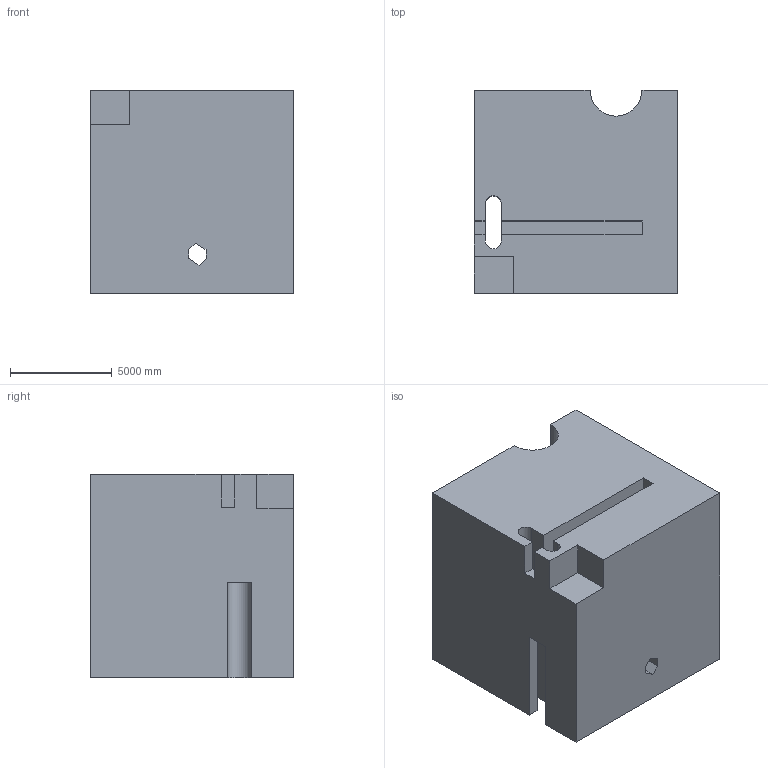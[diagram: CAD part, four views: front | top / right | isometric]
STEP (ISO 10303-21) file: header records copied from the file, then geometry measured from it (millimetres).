
FILE_DESCRIPTION (( 'STEP AP203' ), '1' );
FILE_NAME ('160.STEP', '2022-09-06T12:37:04', ( 'user' ), ( '' ), 'SwSTEP 2.0', 'SolidWorks 2021', '' );
FILE_SCHEMA (( 'CONFIG_CONTROL_DESIGN' ));
Length unit declared in the file: centimetre
Products named in the file (1): 160
Bounding box: 10000 x 10000 x 10000 mm (x, y, z)
Volume: 911600252224 mm3; surface area: 765291000.9 mm2
Topology: 1 solids, 1 shells, 40 faces, 118 edges, 78 vertices
Faces by surface type: plane 36, cylinder 4
Entity records: 1399 total; most frequent: CARTESIAN_POINT 237, ORIENTED_EDGE 236, DIRECTION 208, EDGE_CURVE 118, VECTOR 110, LINE 110, VERTEX_POINT 78, AXIS2_PLACEMENT_3D 49
